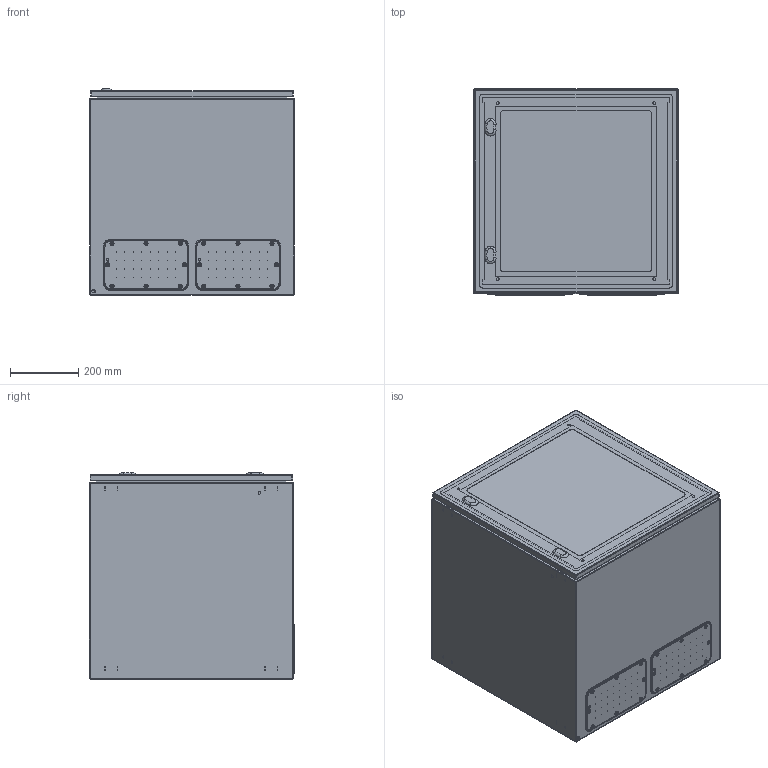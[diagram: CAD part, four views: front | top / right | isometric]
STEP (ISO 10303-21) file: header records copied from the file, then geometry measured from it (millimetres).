
FILE_DESCRIPTION (( 'STEP AP203' ), '1' );
FILE_NAME ('APRO06660BVC.STEP', '2022-01-05T14:09:02', ( '' ), ( '' ), 'SwSTEP 2.0', 'SolidWorks 2021', '' );
FILE_SCHEMA (( 'CONFIG_CONTROL_DESIGN' ));
Length unit declared in the file: millimetre
Products named in the file (8): AR_ECOR_flangia IC_03; AR_ECOR_montaggio_porta_singola_vetro_0600x0600; AR_BOX ABACUS PRO_involucro_0600x0600x0600; APRO06660BVC; 03008080701_04; AR_ECOR_porta_singola_vetro_0600x0600; 03008060001_08; AR_ECOR_chiusura_std_STD
Assembly tree (13 placements, depth 3):
  APRO06660BVC
    AR_BOX ABACUS PRO_involucro_0600x0600x0600
    AR_ECOR_montaggio_porta_singola_vetro_0600x0600
      AR_ECOR_porta_singola_vetro_0600x0600
      AR_ECOR_chiusura_std_STD  x2
    AR_ECOR_flangia IC_03  x2
    03008060001_08  x4
    03008080701_04  x2
Bounding box: 600 x 604 x 605 mm (x, y, z)
Volume: 4456339.3 mm3; surface area: 5166224.2 mm2
Topology: 13 solids, 13 shells, 4217 faces, 11535 edges, 7074 vertices
Faces by surface type: plane 2692, cylinder 1251, cone 112, torus 78, bspline 68, sphere 16
Entity records: 57608 total; most frequent: CARTESIAN_POINT 10941, ORIENTED_EDGE 9496, DIRECTION 9469, EDGE_CURVE 4748, VECTOR 3307, LINE 3307, AXIS2_PLACEMENT_3D 3081, VERTEX_POINT 2974
